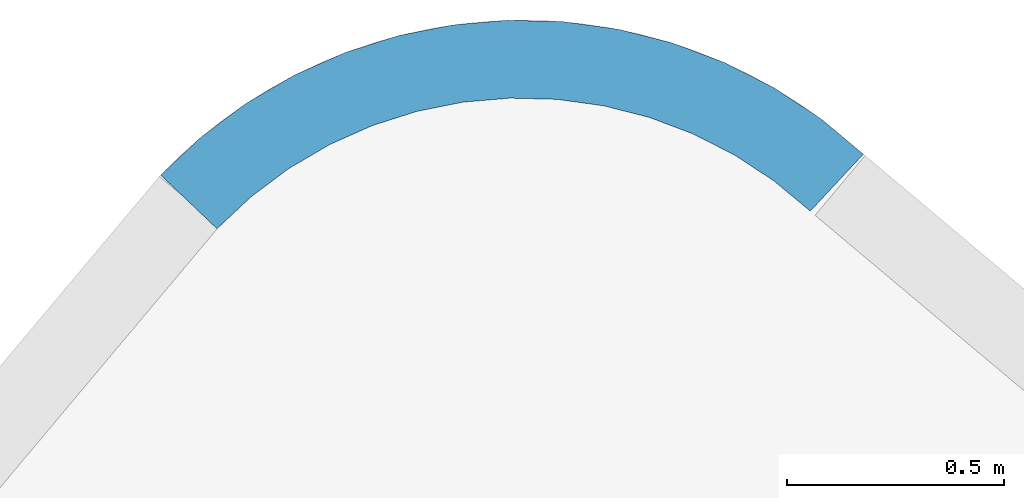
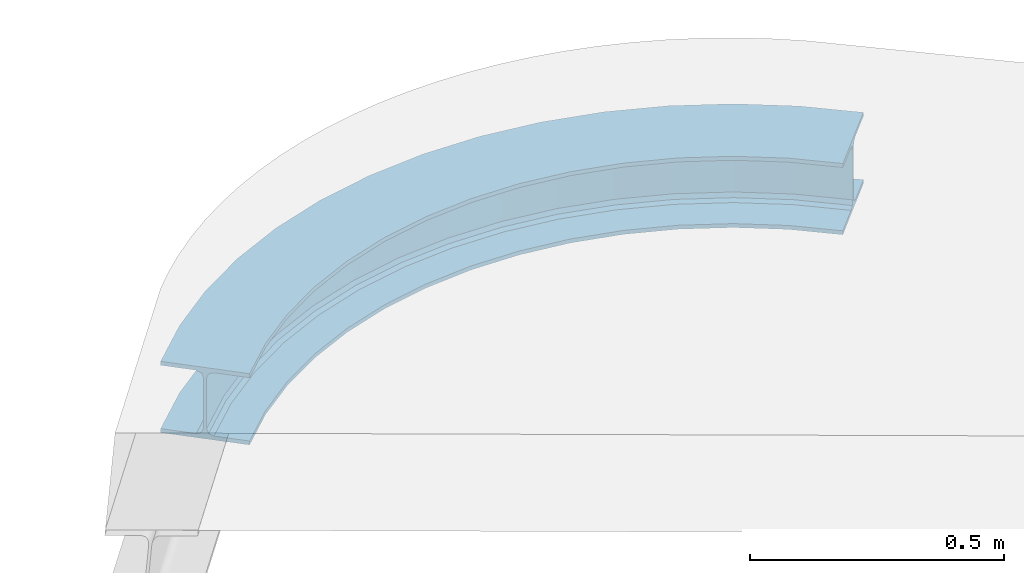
# One storey, part 10 of 14: 1 beam.
"""IFC2X3 building model written with IfcOpenShell, lengths in millimetres."""

from ifc_helpers import new_model, entity, si_unit, converted_unit, derived_unit, direction, frame, origin, place, context, subcontext, project, spatial, faceted_brep, material, type_object, element, save


model = new_model("IFC2X3")

# Units and contexts
model_context = context("Model", 3, precision=0.01, world=origin(), true_north=direction((6.123031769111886e-17, 1.0)))
body_context = subcontext(model_context, "Body", "Model", "MODEL_VIEW")
ifc_project = project(units=[si_unit("LENGTHUNIT", "METRE", prefix="MILLI"), si_unit("AREAUNIT", "SQUARE_METRE"), si_unit("VOLUMEUNIT", "CUBIC_METRE"), derived_unit("MASSDENSITYUNIT", [(si_unit("MASSUNIT", "GRAM", prefix="KILO"), 1), (si_unit("LENGTHUNIT", "METRE"), -3)]), si_unit("MASSUNIT", "GRAM", prefix="KILO"), converted_unit("PLANEANGLEUNIT", "DEGREE", entity("IfcPlaneAngleMeasure", 0.017453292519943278), si_unit("PLANEANGLEUNIT", "RADIAN"), dimensions=[0, 0, 0, 0, 0, 0, 0])], contexts=[model_context])

# Site, building, storey
site_placement = place(None, origin())
site = spatial("IfcSite", under=ifc_project, at=site_placement, Name="Default", CompositionType="ELEMENT")
building_placement = place(site_placement, origin())
building = spatial("IfcBuilding", under=site, at=building_placement, Name="AT constructie", CompositionType="ELEMENT")
storey_placement = place(building_placement, frame((0.0, 0.0, 12043.0)))
storey = spatial("IfcBuildingStorey", under=building, at=storey_placement, Name="03 derde verdieping", CompositionType="ELEMENT", Elevation=12043.0)

# Beam
ifc_material = material(Name="h2_staal_S355")
beam_type = type_object("IfcBeamType", Name="balk HE_gen_HEA180", PredefinedType="NOTDEFINED")
beam_placement = place(storey_placement, frame((25195.873145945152, 57099.35529257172, 0.0), z_axis=(0.0, 0.0, -1.0), x_axis=(1.0, 0.0, 0.0)))
element("IfcBeam", 1, at=beam_placement, inside=storey, type_object=beam_type, material=ifc_material, Name="NLRS_28_SF_LIB_balk HEA_gen_AT:balk HE_gen_HEA180", ObjectType="NLRS_28_SF_LIB_balk HEA_gen_AT:balk HE_gen_HEA180", context=body_context, shape_type="Brep", body=[
    faceted_brep([(-626.4916971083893, -747.0029396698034, 292.0), (-742.1589889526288, -884.9198624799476, 292.0), (-835.9083201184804, -796.956967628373, 292.0), (-705.6299659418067, -672.7492769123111, 292.0), (-742.1589889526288, -884.9198624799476, 301.5000000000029), (-835.9083201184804, -796.956967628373, 301.5000000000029), (-695.8920722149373, -829.7530933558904, 301.50000000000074), (-783.7969784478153, -747.2738913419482, 301.50000000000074), (-689.0763116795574, -821.6262607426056, 305.8933982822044), (-776.1202528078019, -739.954882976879, 305.8933982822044), (-686.2531312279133, -818.260016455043, 316.5000000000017), (-772.9404489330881, -736.9232504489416, 316.5000000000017), (-686.2531312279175, -818.2600164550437, 438.5000000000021), (-772.9404489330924, -736.9232504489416, 438.5000000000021), (-689.0763116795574, -821.6262607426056, 449.1066017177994), (-776.1202528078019, -739.954882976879, 449.1066017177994), (-695.892072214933, -829.7530933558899, 453.500000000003), (-783.796978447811, -747.2738913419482, 453.500000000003), (-742.1589889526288, -884.9198624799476, 453.500000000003), (-835.9083201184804, -796.956967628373, 453.500000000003), (-742.1589889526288, -884.9198624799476, 463.0), (-835.9083201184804, -796.956967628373, 463.0), (-626.4916971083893, -747.0029396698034, 463.0), (-705.6299659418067, -672.7492769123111, 463.0), (-626.4916971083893, -747.0029396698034, 453.500000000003), (-705.6299659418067, -672.7492769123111, 453.500000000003), (-672.7586138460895, -802.1697087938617, 453.500000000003), (-757.7413076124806, -722.4323531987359, 453.500000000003), (-679.5743743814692, -810.2965414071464, 449.1066017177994), (-765.4180332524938, -729.7513615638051, 449.1066017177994), (-682.397554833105, -813.6627856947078, 438.5000000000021), (-768.597837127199, -732.7829940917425, 438.5000000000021), (-682.3975548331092, -813.6627856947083, 316.5000000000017), (-768.5978371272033, -732.7829940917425, 316.5000000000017), (-679.5743743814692, -810.2965414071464, 305.8933982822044), (-765.4180332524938, -729.7513615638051, 305.8933982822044), (-672.758613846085, -802.1697087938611, 301.5000000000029), (-757.7413076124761, -722.4323531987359, 301.5000000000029), (-626.4916971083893, -747.0029396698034, 301.5000000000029), (-705.6299659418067, -672.7492769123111, 301.5000000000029), (-539.5913858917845, -812.0014622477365, 292.0), (-639.214532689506, -961.9188682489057, 292.0), (-639.214532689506, -961.9188682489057, 301.5000000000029), (-599.3652739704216, -901.951905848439, 301.50000000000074), (-593.4949237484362, -893.1179379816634, 305.8933982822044), (-591.0633450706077, -889.4587886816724, 316.5000000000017), (-591.0633450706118, -889.4587886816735, 438.5000000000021), (-593.4949237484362, -893.1179379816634, 449.1066017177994), (-599.3652739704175, -901.951905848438, 453.500000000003), (-639.214532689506, -961.9188682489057, 453.500000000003), (-639.214532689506, -961.9188682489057, 463.0), (-539.5913858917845, -812.0014622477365, 463.0), (-539.5913858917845, -812.0014622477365, 453.500000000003), (-579.4406446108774, -871.9684246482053, 453.500000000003), (-585.3109948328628, -880.8023925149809, 449.1066017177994), (-587.742573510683, -884.4615418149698, 438.5000000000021), (-587.7425735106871, -884.4615418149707, 316.5000000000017), (-585.3109948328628, -880.8023925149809, 305.8933982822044), (-579.440644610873, -871.9684246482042, 301.5000000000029), (-539.5913858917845, -812.0014622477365, 301.5000000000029), (-446.0057008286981, -866.9395326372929, 292.0), (-528.3504019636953, -1026.999990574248, 292.0), (-528.3504019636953, -1026.999990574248, 301.5000000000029), (-495.4125215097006, -962.9758073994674, 301.50000000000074), (-490.56031346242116, -953.5441544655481, 305.8933982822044), (-488.5504630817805, -949.6374359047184, 316.5000000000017), (-488.5504630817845, -949.6374359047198, 438.5000000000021), (-490.56031346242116, -953.5441544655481, 449.1066017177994), (-495.41252150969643, -962.975807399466, 453.500000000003), (-528.3504019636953, -1026.999990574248, 453.500000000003), (-528.3504019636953, -1026.999990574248, 463.0), (-446.0057008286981, -866.9395326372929, 463.0), (-446.0057008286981, -866.9395326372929, 453.500000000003), (-478.9435812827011, -930.9637158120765, 453.500000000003), (-483.7957893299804, -940.3953687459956, 449.1066017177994), (-485.8056397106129, -944.3020873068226, 438.5000000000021), (-485.80563971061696, -944.302087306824, 316.5000000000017), (-483.7957893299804, -940.3953687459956, 305.8933982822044), (-478.94358128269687, -930.963715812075, 301.5000000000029), (-446.0057008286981, -866.9395326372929, 301.5000000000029), (-346.8941402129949, -911.1364847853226, 292.0), (-410.9401697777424, -1079.356894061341, 292.0), (-410.9401697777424, -1079.356894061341, 301.5000000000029), (-385.3217579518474, -1012.0687303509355, 301.50000000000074), (-381.5478094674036, -1002.1562476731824, 305.8933982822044), (-379.9845888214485, -998.0503629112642, 316.5000000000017), (-379.98458882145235, -998.050362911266, 438.5000000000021), (-381.5478094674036, -1002.1562476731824, 449.1066017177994), (-385.3217579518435, -1012.0687303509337, 453.500000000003), (-410.9401697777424, -1079.356894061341, 453.500000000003), (-410.9401697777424, -1079.356894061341, 463.0), (-346.8941402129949, -911.1364847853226, 463.0), (-346.8941402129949, -911.1364847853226, 453.500000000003), (-372.5125520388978, -978.424648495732, 453.500000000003), (-376.28650052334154, -988.337131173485, 449.1066017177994), (-377.84972116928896, -992.4430159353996, 438.5000000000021), (-377.8497211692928, -992.4430159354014, 316.5000000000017), (-376.28650052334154, -988.337131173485, 305.8933982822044), (-372.51255203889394, -978.4246484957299, 301.5000000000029), (-346.8941402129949, -911.1364847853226, 301.5000000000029), (-243.48466626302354, -944.0447318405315, 292.0), (-288.43851334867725, -1118.3408925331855, 292.0), (-288.43851334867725, -1118.3408925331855, 301.5000000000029), (-270.4569745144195, -1048.622428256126, 301.50000000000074), (-267.8080436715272, -1038.3519284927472, 305.8933982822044), (-266.7108205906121, -1034.0977481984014, 316.5000000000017), (-266.71082059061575, -1034.0977481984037, 438.5000000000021), (-267.8080436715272, -1038.3519284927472, 449.1066017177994), (-270.45697451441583, -1048.6224282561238, 453.500000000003), (-288.43851334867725, -1118.3408925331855, 453.500000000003), (-288.43851334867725, -1118.3408925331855, 463.0), (-243.48466626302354, -944.0447318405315, 463.0), (-243.48466626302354, -944.0447318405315, 453.500000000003), (-261.46620509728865, -1013.7631961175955, 453.500000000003), (-264.115135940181, -1024.0336958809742, 449.1066017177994), (-265.2123590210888, -1028.2878761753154, 438.5000000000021), (-265.21235902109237, -1028.2878761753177, 316.5000000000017), (-264.115135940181, -1024.0336958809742, 305.8933982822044), (-261.466205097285, -1013.763196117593, 301.5000000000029), (-243.48466626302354, -944.0447318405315, 301.5000000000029), (-137.05849104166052, -965.2565505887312, 292.0), (-162.36319109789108, -1143.4689860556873, 292.0), (-162.36319109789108, -1143.4689860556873, 301.5000000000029), (-152.24131107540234, -1072.1840118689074, 301.50000000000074), (-150.75021732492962, -1061.6827434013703, 305.8933982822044), (-150.13258607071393, -1057.3329755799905, 316.5000000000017), (-150.1325860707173, -1057.3329755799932, 438.5000000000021), (-150.75021732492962, -1061.6827434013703, 449.1066017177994), (-152.24131107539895, -1072.184011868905, 453.500000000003), (-162.36319109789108, -1143.4689860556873, 453.500000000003), (-162.36319109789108, -1143.4689860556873, 463.0), (-137.05849104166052, -965.2565505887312, 463.0), (-137.05849104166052, -965.2565505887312, 453.500000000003), (-147.18037106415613, -1036.5415247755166, 453.500000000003), (-148.67146481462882, -1047.0427932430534, 449.1066017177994), (-149.28909606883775, -1051.3925610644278, 438.5000000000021), (-149.28909606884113, -1051.3925610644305, 316.5000000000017), (-148.67146481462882, -1047.0427932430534, 305.8933982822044), (-147.18037106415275, -1036.5415247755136, 301.5000000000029), (-137.05849104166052, -965.2565505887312, 301.5000000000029), (-28.934202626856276, -974.5091330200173, 292.0), (-34.276238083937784, -1154.4298451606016, 292.0), (-34.276238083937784, -1154.4298451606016, 301.5000000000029), (-32.13942390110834, -1082.461560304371, 301.50000000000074), (-31.824641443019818, -1071.8596306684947, 305.8933982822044), (-31.694254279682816, -1067.4681676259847, 316.5000000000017), (-31.69425427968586, -1067.4681676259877, 438.5000000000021), (-31.824641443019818, -1071.8596306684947, 449.1066017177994), (-32.13942390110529, -1082.4615603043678, 453.500000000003), (-34.276238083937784, -1154.4298451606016, 453.500000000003), (-34.276238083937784, -1154.4298451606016, 463.0), (-28.934202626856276, -974.5091330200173, 463.0), (-28.934202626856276, -974.5091330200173, 453.500000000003), (-31.07101680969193, -1046.4774178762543, 453.500000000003), (-31.385799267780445, -1057.0793475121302, 449.1066017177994), (-31.516186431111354, -1061.470810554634, 438.5000000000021), (-31.5161864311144, -1061.4708105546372, 316.5000000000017), (-31.385799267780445, -1057.0793475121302, 305.8933982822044), (-31.071016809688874, -1046.477417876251, 301.5000000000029), (-28.934202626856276, -974.5091330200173, 301.5000000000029), (79.54857179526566, -971.6878424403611, 292.0), (94.23538713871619, -1151.087668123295, 292.0), (94.23538713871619, -1151.087668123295, 301.5000000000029), (88.36066100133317, -1079.3277378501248, 301.50000000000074), (87.49523210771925, -1068.756501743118, 305.8933982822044), (87.13675972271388, -1064.3777523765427, 316.5000000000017), (87.1367597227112, -1064.3777523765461, 438.5000000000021), (87.49523210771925, -1068.756501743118, 449.1066017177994), (88.36066100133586, -1079.3277378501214, 453.500000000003), (94.23538713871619, -1151.087668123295, 453.500000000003), (94.23538713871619, -1151.087668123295, 463.0), (79.54857179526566, -971.6878424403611, 463.0), (79.54857179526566, -971.6878424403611, 453.500000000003), (85.42329793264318, -1043.4477727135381, 453.500000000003), (86.28872682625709, -1054.019008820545, 449.1066017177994), (86.64719921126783, -1058.3977581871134, 438.5000000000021), (86.64719921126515, -1058.3977581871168, 316.5000000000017), (86.28872682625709, -1054.019008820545, 305.8933982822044), (85.42329793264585, -1043.4477727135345, 301.5000000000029), (79.54857179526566, -971.6878424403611, 301.5000000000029), (187.04576350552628, -956.8276337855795, 292.0), (221.57946445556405, -1133.483863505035, 292.0), (221.57946445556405, -1133.483863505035, 301.5000000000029), (207.76598407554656, -1062.8213716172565, 301.50000000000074), (205.7310662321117, -1052.4118034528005, 305.8933982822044), (204.8881756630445, -1048.1000191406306, 316.5000000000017), (204.8881756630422, -1048.1000191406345, 438.5000000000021), (205.7310662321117, -1052.4118034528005, 449.1066017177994), (207.76598407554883, -1062.821371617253, 453.500000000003), (221.57946445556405, -1133.483863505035, 453.500000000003), (221.57946445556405, -1133.483863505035, 463.0), (187.04576350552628, -956.8276337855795, 463.0), (187.04576350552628, -956.8276337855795, 453.500000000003), (200.85924388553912, -1027.4901256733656, 453.500000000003), (202.89416172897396, -1037.8996938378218, 449.1066017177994), (203.7370522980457, -1042.211478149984, 438.5000000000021), (203.7370522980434, -1042.2114781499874, 316.5000000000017), (202.89416172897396, -1037.8996938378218, 305.8933982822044), (200.85924388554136, -1027.4901256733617, 301.5000000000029), (187.04576350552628, -956.8276337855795, 301.5000000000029), (292.2255148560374, -930.1126205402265, 292.0), (346.1782393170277, -1101.8365371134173, 292.0), (346.1782393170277, -1101.8365371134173, 301.5000000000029), (324.5971495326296, -1033.146970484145, 301.50000000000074), (321.41795475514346, -1023.0280416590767, 305.8933982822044), (320.10108916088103, -1018.8366441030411, 316.5000000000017), (320.10108916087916, -1018.8366441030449, 438.5000000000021), (321.41795475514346, -1023.0280416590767, 449.1066017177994), (324.5971495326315, -1033.146970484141, 453.500000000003), (346.1782393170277, -1101.8365371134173, 453.500000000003), (346.1782393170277, -1101.8365371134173, 463.0), (292.2255148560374, -930.1126205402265, 463.0), (292.2255148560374, -930.1126205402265, 453.500000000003), (313.80660464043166, -998.8021871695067, 453.500000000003), (316.9857994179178, -1008.9211159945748, 449.1066017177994), (318.302665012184, -1013.1125135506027, 438.5000000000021), (318.3026650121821, -1013.1125135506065, 316.5000000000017), (316.9857994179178, -1008.9211159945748, 305.8933982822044), (313.80660464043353, -998.8021871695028, 301.5000000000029), (292.2255148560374, -930.1126205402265, 301.5000000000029), (393.7846805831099, -891.8737936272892, 292.0), (466.4879706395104, -1056.5377897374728, 292.0), (466.4879706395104, -1056.5377897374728, 301.5000000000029), (437.4066546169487, -990.6721912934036, 301.50000000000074), (433.1225721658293, -980.969272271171, 305.8933982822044), (431.3480471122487, -976.9501916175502, 316.5000000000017), (431.3480471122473, -976.9501916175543, 438.5000000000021), (433.1225721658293, -980.969272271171, 449.1066017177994), (437.40665461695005, -990.6721912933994, 453.500000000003), (466.4879706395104, -1056.5377897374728, 453.500000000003), (466.4879706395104, -1056.5377897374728, 463.0), (393.7846805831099, -891.8737936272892, 463.0), (393.7846805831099, -891.8737936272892, 453.500000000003), (422.86599660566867, -957.7393920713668, 453.500000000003), (427.150079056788, -967.4423110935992, 449.1066017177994), (428.9246041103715, -971.4613917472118, 438.5000000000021), (428.92460411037, -971.4613917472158, 316.5000000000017), (427.150079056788, -967.4423110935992, 305.8933982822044), (422.8659966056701, -957.7393920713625, 301.5000000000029), (393.7846805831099, -891.8737936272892, 301.5000000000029), (490.4649733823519, -842.5849205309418, 292.0), (581.0180572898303, -998.1488591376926, 292.0), (581.0180572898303, -998.1488591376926, 301.5000000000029), (544.7968237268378, -935.9232836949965, 301.50000000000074), (539.4609320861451, -926.7565907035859, 305.8933982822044), (537.2507334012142, -922.9596221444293, 316.5000000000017), (537.2507334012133, -922.9596221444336, 438.5000000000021), (539.4609320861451, -926.7565907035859, 449.1066017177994), (544.7968237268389, -935.9232836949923, 453.500000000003), (581.0180572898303, -998.1488591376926, 453.500000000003), (581.0180572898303, -998.1488591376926, 463.0), (490.4649733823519, -842.5849205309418, 463.0), (490.4649733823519, -842.5849205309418, 453.500000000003), (526.6862069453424, -904.8104959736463, 453.500000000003), (532.022098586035, -913.9771889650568, 449.1066017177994), (534.2322972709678, -917.7741575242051, 438.5000000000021), (534.2322972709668, -917.7741575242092, 316.5000000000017), (532.022098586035, -913.9771889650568, 305.8933982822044), (526.6862069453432, -904.810495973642, 301.5000000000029), (490.4649733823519, -842.5849205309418, 301.5000000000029), (581.0685537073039, -782.8566754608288, 292.0), (688.3495061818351, -927.3931664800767, 292.0), (688.3495061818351, -927.3931664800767, 301.5000000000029), (645.4371251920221, -869.5785700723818, 301.50000000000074), (639.115534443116, -861.0616756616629, 305.8933982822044), (636.4970458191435, -857.5338624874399, 316.5000000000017), (636.497045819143, -857.5338624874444, 438.5000000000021), (639.115534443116, -861.0616756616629, 449.1066017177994), (645.4371251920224, -869.5785700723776, 453.500000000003), (688.3495061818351, -927.3931664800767, 453.500000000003), (688.3495061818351, -927.3931664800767, 463.0), (581.0685537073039, -782.8566754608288, 463.0), (581.0685537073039, -782.8566754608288, 453.500000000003), (623.9809346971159, -840.6712718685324, 453.500000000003), (630.3025254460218, -849.1881662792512, 449.1066017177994), (632.9210140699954, -852.7159794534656, 438.5000000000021), (632.9210140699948, -852.7159794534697, 316.5000000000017), (630.3025254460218, -849.1881662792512, 305.8933982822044), (623.9809346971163, -840.6712718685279, 301.5000000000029), (581.0685537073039, -782.8566754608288, 301.5000000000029), (664.4728706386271, -713.4290732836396, 292.0), (787.1525131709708, -845.1473533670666, 292.0), (787.1525131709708, -845.1473533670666, 301.5000000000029), (738.0806561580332, -792.4600413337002, 301.50000000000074), (730.851688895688, -784.6984672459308, 305.8933982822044), (727.8573526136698, -781.4835179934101, 316.5000000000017), (727.8573526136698, -781.4835179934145, 438.5000000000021), (730.851688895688, -784.6984672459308, 449.1066017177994), (738.0806561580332, -792.4600413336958, 453.500000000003), (787.1525131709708, -845.1473533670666, 453.500000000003), (787.1525131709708, -845.1473533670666, 463.0), (664.4728706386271, -713.4290732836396, 463.0), (664.4728706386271, -713.4290732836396, 453.500000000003), (713.5447276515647, -766.1163853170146, 453.500000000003), (720.7736949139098, -773.877959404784, 449.1066017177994), (723.7680311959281, -777.092908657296, 438.5000000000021), (723.768031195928, -777.0929086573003, 316.5000000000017), (720.7736949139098, -773.877959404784, 305.8933982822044), (713.5447276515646, -766.1163853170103, 301.5000000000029), (664.4728706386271, -713.4290732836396, 301.5000000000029)], [[[0, 1, 2, 3]], [[1, 4, 5, 2]], [[4, 6, 7, 5]], [[6, 8, 9, 7]], [[8, 10, 11, 9]], [[10, 12, 13, 11]], [[12, 14, 15, 13]], [[14, 16, 17, 15]], [[16, 18, 19, 17]], [[18, 20, 21, 19]], [[20, 22, 23, 21]], [[22, 24, 25, 23]], [[24, 26, 27, 25]], [[26, 28, 29, 27]], [[28, 30, 31, 29]], [[30, 32, 33, 31]], [[32, 34, 35, 33]], [[34, 36, 37, 35]], [[36, 38, 39, 37]], [[38, 0, 3, 39]], [[40, 41, 1, 0]], [[41, 42, 4, 1]], [[42, 43, 6, 4]], [[43, 44, 8, 6]], [[44, 45, 10, 8]], [[45, 46, 12, 10]], [[46, 47, 14, 12]], [[47, 48, 16, 14]], [[48, 49, 18, 16]], [[49, 50, 20, 18]], [[50, 51, 22, 20]], [[51, 52, 24, 22]], [[52, 53, 26, 24]], [[53, 54, 28, 26]], [[54, 55, 30, 28]], [[55, 56, 32, 30]], [[56, 57, 34, 32]], [[57, 58, 36, 34]], [[58, 59, 38, 36]], [[59, 40, 0, 38]], [[60, 61, 41, 40]], [[61, 62, 42, 41]], [[62, 63, 43, 42]], [[63, 64, 44, 43]], [[64, 65, 45, 44]], [[65, 66, 46, 45]], [[66, 67, 47, 46]], [[67, 68, 48, 47]], [[68, 69, 49, 48]], [[69, 70, 50, 49]], [[70, 71, 51, 50]], [[71, 72, 52, 51]], [[72, 73, 53, 52]], [[73, 74, 54, 53]], [[74, 75, 55, 54]], [[75, 76, 56, 55]], [[76, 77, 57, 56]], [[77, 78, 58, 57]], [[78, 79, 59, 58]], [[79, 60, 40, 59]], [[80, 81, 61, 60]], [[81, 82, 62, 61]], [[82, 83, 63, 62]], [[83, 84, 64, 63]], [[84, 85, 65, 64]], [[85, 86, 66, 65]], [[86, 87, 67, 66]], [[87, 88, 68, 67]], [[88, 89, 69, 68]], [[89, 90, 70, 69]], [[90, 91, 71, 70]], [[91, 92, 72, 71]], [[92, 93, 73, 72]], [[93, 94, 74, 73]], [[94, 95, 75, 74]], [[95, 96, 76, 75]], [[96, 97, 77, 76]], [[97, 98, 78, 77]], [[98, 99, 79, 78]], [[99, 80, 60, 79]], [[100, 101, 81, 80]], [[101, 102, 82, 81]], [[102, 103, 83, 82]], [[103, 104, 84, 83]], [[104, 105, 85, 84]], [[105, 106, 86, 85]], [[106, 107, 87, 86]], [[107, 108, 88, 87]], [[108, 109, 89, 88]], [[109, 110, 90, 89]], [[110, 111, 91, 90]], [[111, 112, 92, 91]], [[112, 113, 93, 92]], [[113, 114, 94, 93]], [[114, 115, 95, 94]], [[115, 116, 96, 95]], [[116, 117, 97, 96]], [[117, 118, 98, 97]], [[118, 119, 99, 98]], [[119, 100, 80, 99]], [[120, 121, 101, 100]], [[121, 122, 102, 101]], [[122, 123, 103, 102]], [[123, 124, 104, 103]], [[124, 125, 105, 104]], [[125, 126, 106, 105]], [[126, 127, 107, 106]], [[127, 128, 108, 107]], [[128, 129, 109, 108]], [[129, 130, 110, 109]], [[130, 131, 111, 110]], [[131, 132, 112, 111]], [[132, 133, 113, 112]], [[133, 134, 114, 113]], [[134, 135, 115, 114]], [[135, 136, 116, 115]], [[136, 137, 117, 116]], [[137, 138, 118, 117]], [[138, 139, 119, 118]], [[139, 120, 100, 119]], [[140, 141, 121, 120]], [[141, 142, 122, 121]], [[142, 143, 123, 122]], [[143, 144, 124, 123]], [[144, 145, 125, 124]], [[145, 146, 126, 125]], [[146, 147, 127, 126]], [[147, 148, 128, 127]], [[148, 149, 129, 128]], [[149, 150, 130, 129]], [[150, 151, 131, 130]], [[151, 152, 132, 131]], [[152, 153, 133, 132]], [[153, 154, 134, 133]], [[154, 155, 135, 134]], [[155, 156, 136, 135]], [[156, 157, 137, 136]], [[157, 158, 138, 137]], [[158, 159, 139, 138]], [[159, 140, 120, 139]], [[160, 161, 141, 140]], [[161, 162, 142, 141]], [[162, 163, 143, 142]], [[163, 164, 144, 143]], [[164, 165, 145, 144]], [[165, 166, 146, 145]], [[166, 167, 147, 146]], [[167, 168, 148, 147]], [[168, 169, 149, 148]], [[169, 170, 150, 149]], [[170, 171, 151, 150]], [[171, 172, 152, 151]], [[172, 173, 153, 152]], [[173, 174, 154, 153]], [[174, 175, 155, 154]], [[175, 176, 156, 155]], [[176, 177, 157, 156]], [[177, 178, 158, 157]], [[178, 179, 159, 158]], [[179, 160, 140, 159]], [[180, 181, 161, 160]], [[181, 182, 162, 161]], [[182, 183, 163, 162]], [[183, 184, 164, 163]], [[184, 185, 165, 164]], [[185, 186, 166, 165]], [[186, 187, 167, 166]], [[187, 188, 168, 167]], [[188, 189, 169, 168]], [[189, 190, 170, 169]], [[190, 191, 171, 170]], [[191, 192, 172, 171]], [[192, 193, 173, 172]], [[193, 194, 174, 173]], [[194, 195, 175, 174]], [[195, 196, 176, 175]], [[196, 197, 177, 176]], [[197, 198, 178, 177]], [[198, 199, 179, 178]], [[199, 180, 160, 179]], [[200, 201, 181, 180]], [[201, 202, 182, 181]], [[202, 203, 183, 182]], [[203, 204, 184, 183]], [[204, 205, 185, 184]], [[205, 206, 186, 185]], [[206, 207, 187, 186]], [[207, 208, 188, 187]], [[208, 209, 189, 188]], [[209, 210, 190, 189]], [[210, 211, 191, 190]], [[211, 212, 192, 191]], [[212, 213, 193, 192]], [[213, 214, 194, 193]], [[214, 215, 195, 194]], [[215, 216, 196, 195]], [[216, 217, 197, 196]], [[217, 218, 198, 197]], [[218, 219, 199, 198]], [[219, 200, 180, 199]], [[220, 221, 201, 200]], [[221, 222, 202, 201]], [[222, 223, 203, 202]], [[223, 224, 204, 203]], [[224, 225, 205, 204]], [[225, 226, 206, 205]], [[226, 227, 207, 206]], [[227, 228, 208, 207]], [[228, 229, 209, 208]], [[229, 230, 210, 209]], [[230, 231, 211, 210]], [[231, 232, 212, 211]], [[232, 233, 213, 212]], [[233, 234, 214, 213]], [[234, 235, 215, 214]], [[235, 236, 216, 215]], [[236, 237, 217, 216]], [[237, 238, 218, 217]], [[238, 239, 219, 218]], [[239, 220, 200, 219]], [[240, 241, 221, 220]], [[241, 242, 222, 221]], [[242, 243, 223, 222]], [[243, 244, 224, 223]], [[244, 245, 225, 224]], [[245, 246, 226, 225]], [[246, 247, 227, 226]], [[247, 248, 228, 227]], [[248, 249, 229, 228]], [[249, 250, 230, 229]], [[250, 251, 231, 230]], [[251, 252, 232, 231]], [[252, 253, 233, 232]], [[253, 254, 234, 233]], [[254, 255, 235, 234]], [[255, 256, 236, 235]], [[256, 257, 237, 236]], [[257, 258, 238, 237]], [[258, 259, 239, 238]], [[259, 240, 220, 239]], [[260, 261, 241, 240]], [[261, 262, 242, 241]], [[262, 263, 243, 242]], [[263, 264, 244, 243]], [[264, 265, 245, 244]], [[265, 266, 246, 245]], [[266, 267, 247, 246]], [[267, 268, 248, 247]], [[268, 269, 249, 248]], [[269, 270, 250, 249]], [[270, 271, 251, 250]], [[271, 272, 252, 251]], [[272, 273, 253, 252]], [[273, 274, 254, 253]], [[274, 275, 255, 254]], [[275, 276, 256, 255]], [[276, 277, 257, 256]], [[277, 278, 258, 257]], [[278, 279, 259, 258]], [[279, 260, 240, 259]], [[280, 281, 261, 260]], [[281, 282, 262, 261]], [[282, 283, 263, 262]], [[283, 284, 264, 263]], [[284, 285, 265, 264]], [[285, 286, 266, 265]], [[286, 287, 267, 266]], [[287, 288, 268, 267]], [[288, 289, 269, 268]], [[289, 290, 270, 269]], [[290, 291, 271, 270]], [[291, 292, 272, 271]], [[292, 293, 273, 272]], [[293, 294, 274, 273]], [[294, 295, 275, 274]], [[295, 296, 276, 275]], [[296, 297, 277, 276]], [[297, 298, 278, 277]], [[298, 299, 279, 278]], [[299, 280, 260, 279]], [[3, 2, 5, 7, 9, 11, 13, 15, 17, 19, 21, 23, 25, 27, 29, 31, 33, 35, 37, 39]], [[299, 298, 297, 296, 295, 294, 293, 292, 291, 290, 289, 288, 287, 286, 285, 284, 283, 282, 281, 280]]]),
])

save(model, "model.ifc")
